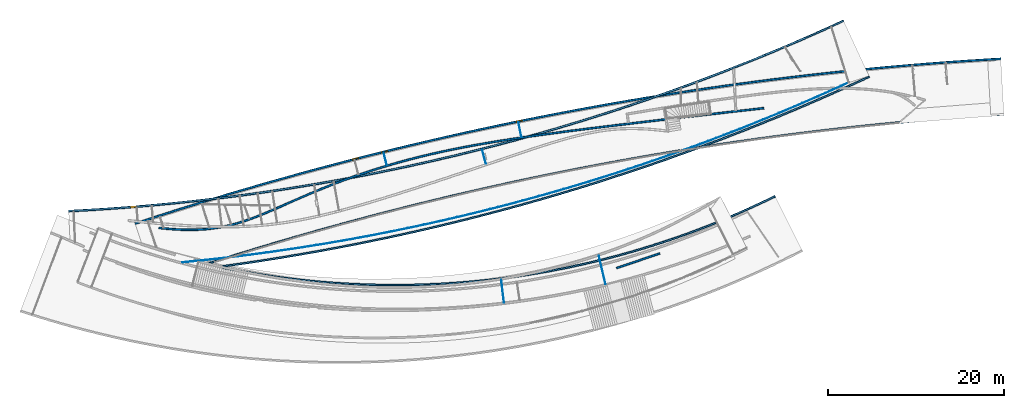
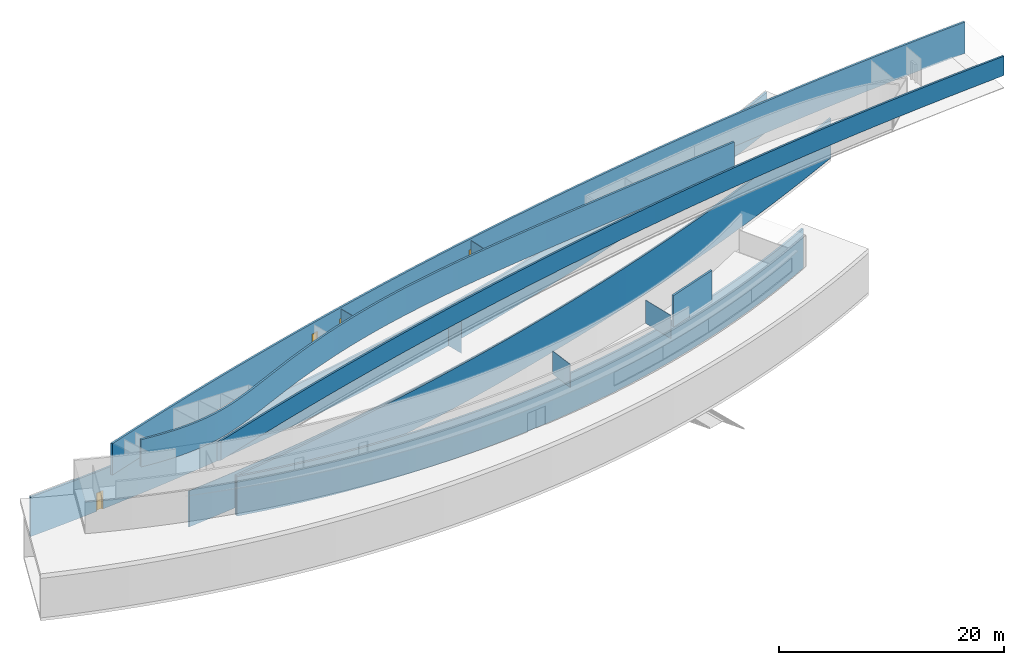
# Not in any storey, part 7 of 14: 13 walls, 4 doors, 4 openings.
"""IFC2X3 model written with IfcOpenShell, lengths in millimetres."""

from ifc_helpers import new_model, entity, si_unit, converted_unit, point, direction, frame, frame_2d, origin_with_axes, origin_2d, place, context, project, spatial, polyline, circle_curve, trimmed, segment, composite_curve, rectangle, outline, extrude, source, transform, mapped, material, layer, layer_set, layer_usage, type_object, element, fill, save


model = new_model("IFC2X3")

# Units and contexts
model_context = context("Model", 3, precision=1.0, world=origin_with_axes(), true_north=direction((0.0, 1.0)))
ifc_project = project(units=[si_unit("LENGTHUNIT", "METRE", prefix="MILLI"), converted_unit("PLANEANGLEUNIT", "DEGREE", entity("IfcRatioMeasure", 0.017453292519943), si_unit("PLANEANGLEUNIT", "RADIAN"), dimensions=[0, 0, 0, 0, 0, 0, 0])], contexts=[model_context])

# Site
site_placement = place(None, origin_with_axes())
site = spatial("IfcSite", under=ifc_project, at=site_placement, Name="Site", CompositionType="ELEMENT")

# Wall
ifc_material_1 = material(Name="Wall layer 1")
ifc_layer_1 = layer(ifc_material_1, 200.0)
ifc_layer_set_1 = layer_set([ifc_layer_1], Name="HOKI 350")
ifc_layer_usage_1 = layer_usage(ifc_layer_set_1, "AXIS2", "POSITIVE", -100.0)
wall_type_1 = type_object("IfcWallType", Name="HOKI 350", PredefinedType="STANDARD", material=ifc_layer_set_1)
wall_1_placement = place(site_placement, frame((52146.9974013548, 8286.93110447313, 10900.0), z_axis=(0.0, 0.0, 1.0), x_axis=(-0.99808828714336, -0.061804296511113, 0.0)))
element("IfcWallStandardCase", 1, at=wall_1_placement, inside=site, type_object=wall_type_1, material=ifc_layer_usage_1, ObjectType="HOKI 350", context=model_context, shape_type="SweptSolid", body=[
    extrude(outline(composite_curve([segment(polyline([(91254.4080487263, 11231.7827507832), (90890.7226254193, 11346.4550973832)]), True, "CONTINUOUS"), segment(trimmed(circle_curve(frame_2d((-1.928129e-09, 373000.000000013), x_axis=(0.243740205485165, -0.969840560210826)), 372900.000000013), [point((90890.7226254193, 11346.4550973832))], [point((-5.8208e-11, 99.9999999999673))], False, "CARTESIAN"), True, "CONTINUOUS"), segment(polyline([(-2.9104e-11, 99.9999999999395), (-9.834e-12, -100.000000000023)]), True, "CONTINUOUS"), segment(trimmed(circle_curve(frame_2d((-8.00355e-10, 373000.000000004), x_axis=(2e-15, -1.0)), 373100.000000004), [point((-9.834e-12, -100.0))], [point((91254.4080487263, 11231.7827507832))], True, "CARTESIAN"), True, "CONTINUOUS")], self_intersect="UNKNOWN")), origin_with_axes(), (0.0, 0.0, 1.0), 2100.0),
])

# Wall, openings, doors
wall_2_placement = place(site_placement, frame((-46484.6938689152, -4120.79803560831, 9600.0), z_axis=(0.0, 0.0, 1.0), x_axis=(0.949368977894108, 0.314163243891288, 0.0)))
wall_2 = element("IfcWallStandardCase", 2, at=wall_2_placement, inside=site, type_object=wall_type_1, material=ifc_layer_usage_1, ObjectType="HOKI 350", context=model_context, shape_type="SweptSolid", body=[
    extrude(outline(composite_curve([segment(polyline([(99150.5862970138, -13209.7025748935), (99202.5656345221, -13016.5752892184)]), True, "CONTINUOUS"), segment(trimmed(circle_curve(frame_2d((-4.25644e-10, -381600.000000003), x_axis=(0.25989668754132, 0.965636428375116)), 381700.000000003), [point((99202.5656345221, -13016.5752892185))], [point((1.4552e-11, 100.000000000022))], True, "CARTESIAN"), True, "CONTINUOUS"), segment(polyline([(-7.276e-12, 100.000000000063), (-7.105e-12, -99.9999999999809)]), True, "CONTINUOUS"), segment(trimmed(circle_curve(frame_2d((8.62201e-10, -381599.999999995), x_axis=(0.0, 1.0)), 381499.999999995), [point((-7.105e-12, -100.0))], [point((99150.5862970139, -13209.7025748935))], False, "CARTESIAN"), True, "CONTINUOUS")], self_intersect="UNKNOWN")), origin_with_axes(), (0.0, 0.0, 1.0), 3400.0),
])
opening_1_placement = place(wall_2_placement, frame((45030.6825402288, -2666.39746525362, 250.000000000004), z_axis=(0.0, 0.0, 1.0), x_axis=(-0.99301300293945, 0.118004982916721, 3e-15)))
opening_1 = element("IfcOpeningElement", 3, at=opening_1_placement, cuts=wall_2, Name="Opening", ObjectType="Opening", context=model_context, shape_type="SweptSolid", body=[
    extrude(rectangle(XDim=700.0, YDim=2000.0, at=origin_2d()), frame((0.0, 600.0, 1000.0), z_axis=(0.0, -1.0, 0.0), x_axis=(1.0, 0.0, 0.0)), (0.0, 0.0, 1.0), 1200.0),
])
opening_2_placement = place(wall_2_placement, frame((29426.9057776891, -1136.47386858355, 250.000000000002), z_axis=(0.0, 0.0, 1.0), x_axis=(0.997022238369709, -0.077114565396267, 5e-15)))
opening_2 = element("IfcOpeningElement", 4, at=opening_2_placement, cuts=wall_2, Name="Opening", ObjectType="Opening", context=model_context, shape_type="SweptSolid", body=[
    extrude(rectangle(XDim=700.0, YDim=2000.0, at=origin_2d()), frame((0.0, 600.0, 1000.0), z_axis=(0.0, -1.0, 0.0), x_axis=(1.0, 0.0, 0.0)), (0.0, 0.0, 1.0), 1200.0),
])
opening_3_placement = place(wall_2_placement, frame((26040.5911524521, -889.709736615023, 250.000000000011), z_axis=(0.0, 0.0, 1.0), x_axis=(-0.997668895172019, 0.068240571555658, 3e-15)))
opening_3 = element("IfcOpeningElement", 5, at=opening_3_placement, cuts=wall_2, Name="Opening", ObjectType="Opening", context=model_context, shape_type="SweptSolid", body=[
    extrude(rectangle(XDim=700.0, YDim=2000.0, at=origin_2d()), frame((0.0, 600.0, 1000.0), z_axis=(0.0, -1.0, 0.0), x_axis=(1.0, 0.0, 0.0)), (0.0, 0.0, 1.0), 1200.0),
])
door_style_1 = type_object("IfcDoorStyle", Name="Hinged (001)", ConstructionType="NOTDEFINED", OperationType="SINGLE_SWING_RIGHT", ParameterTakesPrecedence=True, Sizeable=False)
shared_shape_1 = source(origin_with_axes(), model_context, "Body", "SweptSolid", [
    extrude(outline(composite_curve([segment(polyline([(0.0, 0.0), (0.0, 1950.0)]), True, "CONTINUOUS"), segment(polyline([(0.0, 1950.0), (600.0, 1950.0)]), True, "CONTINUOUS"), segment(polyline([(600.0, 1950.0), (600.0, 0.0)]), True, "CONTINUOUS"), segment(polyline([(600.0, 0.0), (650.0, 0.0)]), True, "CONTINUOUS"), segment(polyline([(650.0, 0.0), (650.0, 2000.0)]), True, "CONTINUOUS"), segment(polyline([(650.0, 2000.0), (-50.0, 2000.0)]), True, "CONTINUOUS"), segment(polyline([(-50.0, 2000.0), (-50.0, 0.0)]), True, "CONTINUOUS"), segment(polyline([(-50.0, 0.0), (0.0, 0.0)]), True, "CONTINUOUS")], self_intersect=False)), frame((300.0, -100.0, 0.0), z_axis=(0.0, 1.0, 0.0), x_axis=(-1.0, 0.0, 0.0)), (0.0, 0.0, 1.0), 199.999999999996),
    extrude(outline(composite_curve([segment(polyline([(0.0, 0.0), (0.0, 1950.0)]), True, "CONTINUOUS"), segment(polyline([(0.0, 1950.0), (-600.0, 1950.0)]), True, "CONTINUOUS"), segment(polyline([(-600.0, 1950.0), (-600.0, 0.0)]), True, "CONTINUOUS"), segment(polyline([(-600.0, 0.0), (0.0, 0.0)]), True, "CONTINUOUS")], self_intersect=False)), frame((-300.000000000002, 59.9999999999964, 0.0), z_axis=(9.1e-14, 1.0, 0.0), x_axis=(-1.0, 9.1e-14, 0.0)), (0.0, 0.0, 1.0), 40.0000000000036),
])
door_1_placement = place(opening_1_placement, frame((0.0, 0.0, 0.0), z_axis=(0.0, 0.0, 1.0), x_axis=(-1.0, 0.0, -3e-15)))
door_1 = element("IfcDoor", 6, at=door_1_placement, inside=site, type_object=door_style_1, ObjectType="Hinged (001)", OverallHeight=2000.0, OverallWidth=700.0, shape_type="MappedRepresentation", body=[
    mapped(shared_shape_1, transform((0.0, 0.0, 0.0), scale=-1.0, scale2=1.0, scale3=1.0, uniform=False)),
])
fill(opening_1, door_1)
door_2_placement = place(opening_2_placement, frame((0.0, 0.0, 0.0), z_axis=(0.0, 0.0, 1.0), x_axis=(-1.0, 0.0, -5e-15)))
door_2 = element("IfcDoor", 7, at=door_2_placement, inside=site, type_object=door_style_1, ObjectType="Hinged (001)", OverallHeight=2000.0, OverallWidth=700.0, shape_type="MappedRepresentation", body=[
    mapped(shared_shape_1, transform((0.0, 0.0, 0.0), scale=-1.0, scale2=1.0, scale3=1.0, uniform=False)),
])
fill(opening_2, door_2)
door_3_placement = place(opening_3_placement, frame((0.0, 0.0, 0.0), z_axis=(0.0, 0.0, 1.0), x_axis=(-1.0, 0.0, -3e-15)))
door_3 = element("IfcDoor", 8, at=door_3_placement, inside=site, type_object=door_style_1, ObjectType="Hinged (001)", OverallHeight=2000.0, OverallWidth=700.0, shape_type="MappedRepresentation", body=[
    mapped(shared_shape_1, transform((0.0, 0.0, 0.0), scale=-1.0, scale2=1.0, scale3=1.0, uniform=False)),
])
fill(opening_3, door_3)

# Wall, opening, door
wall_3_placement = place(site_placement, frame((-54046.1110453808, -2705.23780272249, 4720.0), z_axis=(0.0, 0.0, 1.0), x_axis=(0.998764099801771, 0.049701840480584, 0.0)))
wall_3 = element("IfcWallStandardCase", 9, at=wall_3_placement, inside=site, type_object=wall_type_1, material=ifc_layer_usage_1, ObjectType="HOKI 350", context=model_context, shape_type="SweptSolid", body=[
    extrude(outline(composite_curve([segment(polyline([(88994.8849225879, 17118.2698197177), (88920.2873660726, 17303.8370704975)]), True, "CONTINUOUS"), segment(trimmed(circle_curve(frame_2d((6.5484e-11, 238499.999999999), x_axis=(0.372987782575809, -0.92783625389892)), 238399.999999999), [point((88920.2873660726, 17303.8370704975))], [point((2.9104e-11, 99.9999999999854))], False, "CARTESIAN"), True, "CONTINUOUS"), segment(polyline([(3.638e-11, 100.000000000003), (-8.583e-12, -99.999999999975)]), True, "CONTINUOUS"), segment(trimmed(circle_curve(frame_2d((-5.8208e-11, 238500.0), x_axis=(0.0, -1.0)), 238600.0), [point((-8.583e-12, -99.9999999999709))], [point((88994.8849225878, 17118.2698197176))], True, "CARTESIAN"), True, "CONTINUOUS")], self_intersect="UNKNOWN")), origin_with_axes(), (0.0, 0.0, 1.0), 4280.0),
])
opening_4_placement = place(wall_3_placement, frame((7370.295179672, 114.165167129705, 0.0), z_axis=(0.0, 0.0, 1.0), x_axis=(0.999522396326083, 0.030902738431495, 0.0)))
opening_4 = element("IfcOpeningElement", 10, at=opening_4_placement, cuts=wall_3, Name="Opening", ObjectType="Opening", context=model_context, shape_type="SweptSolid", body=[
    extrude(rectangle(XDim=700.0, YDim=2000.0, at=origin_2d()), frame((0.0, 600.0, 1000.0), z_axis=(0.0, -1.0, 0.0), x_axis=(1.0, 0.0, 0.0)), (0.0, 0.0, 1.0), 1200.0),
])
door_style_2 = type_object("IfcDoorStyle", Name="Hinged", ConstructionType="NOTDEFINED", OperationType="SINGLE_SWING_LEFT", ParameterTakesPrecedence=True, Sizeable=False)
shared_shape_2 = source(origin_with_axes(), model_context, "Body", "SweptSolid", [
    extrude(outline(composite_curve([segment(polyline([(0.0, 0.0), (0.0, 1950.0)]), True, "CONTINUOUS"), segment(polyline([(0.0, 1950.0), (600.0, 1950.0)]), True, "CONTINUOUS"), segment(polyline([(600.0, 1950.0), (600.0, 0.0)]), True, "CONTINUOUS"), segment(polyline([(600.0, 0.0), (650.0, 0.0)]), True, "CONTINUOUS"), segment(polyline([(650.0, 0.0), (650.0, 2000.0)]), True, "CONTINUOUS"), segment(polyline([(650.0, 2000.0), (-50.0, 2000.0)]), True, "CONTINUOUS"), segment(polyline([(-50.0, 2000.0), (-50.0, 0.0)]), True, "CONTINUOUS"), segment(polyline([(-50.0, 0.0), (0.0, 0.0)]), True, "CONTINUOUS")], self_intersect=False)), frame((300.0, -100.0, 0.0), z_axis=(-9e-15, 1.0, 0.0), x_axis=(-1.0, -9e-15, 0.0)), (0.0, 0.0, 1.0), 200.0),
    extrude(outline(composite_curve([segment(polyline([(0.0, 0.0), (0.0, 1950.0)]), True, "CONTINUOUS"), segment(polyline([(0.0, 1950.0), (-600.0, 1950.0)]), True, "CONTINUOUS"), segment(polyline([(-600.0, 1950.0), (-600.0, 0.0)]), True, "CONTINUOUS"), segment(polyline([(-600.0, 0.0), (0.0, 0.0)]), True, "CONTINUOUS")], self_intersect=False)), frame((-300.0, 60.0, 0.0), z_axis=(0.0, 1.0, 0.0), x_axis=(-1.0, 0.0, 0.0)), (0.0, 0.0, 1.0), 40.0000000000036),
])
door_4_placement = place(opening_4_placement, origin_with_axes())
door_4 = element("IfcDoor", 11, at=door_4_placement, inside=site, type_object=door_style_2, ObjectType="Hinged", OverallHeight=2000.0, OverallWidth=700.0, shape_type="MappedRepresentation", body=[
    mapped(shared_shape_2, transform((0.0, 0.0, 0.0))),
])
fill(opening_4, door_4)

# Walls
wall_4_placement = place(site_placement, frame((-36546.7268392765, -8968.23393731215, 4720.0), z_axis=(0.0, 0.0, 1.0), x_axis=(0.990880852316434, 0.134740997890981, 0.0)))
element("IfcWallStandardCase", 12, at=wall_4_placement, inside=site, type_object=wall_type_1, material=ifc_layer_usage_1, ObjectType="HOKI 350", context=model_context, shape_type="SweptSolid", body=[
    extrude(outline(composite_curve([segment(polyline([(75676.6294916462, 11350.4803590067), (75617.4608993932, 11541.5276769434)]), True, "CONTINUOUS"), segment(trimmed(circle_curve(frame_2d((3.27418e-10, 255699.999999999), x_axis=(0.295842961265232, -0.95523658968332)), 255599.999999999), [point((75617.4608993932, 11541.5276769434))], [point((-2.9104e-11, 99.99999999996))], False, "CARTESIAN"), True, "CONTINUOUS"), segment(polyline([(-3.6378e-11, 99.9999999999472), (5.909e-12, -100.000000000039)]), True, "CONTINUOUS"), segment(trimmed(circle_curve(frame_2d((-1.89175e-10, 255700.000000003), x_axis=(1e-15, -1.0)), 255800.000000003), [point((5.909e-12, -100.000000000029))], [point((75676.6294916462, 11350.4803590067))], True, "CARTESIAN"), True, "CONTINUOUS")], self_intersect="UNKNOWN")), origin_with_axes(), (0.0, 0.0, 1.0), 4280.0),
])
wall_5_placement = place(site_placement, frame((-36560.0719988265, -9115.74075277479, 4720.0), z_axis=(0.0, 0.0, 1.0), x_axis=(0.979627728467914, -0.200822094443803, 0.0)))
element("IfcWallStandardCase", 13, at=wall_5_placement, inside=site, type_object=wall_type_1, material=ifc_layer_usage_1, ObjectType="HOKI 350", context=model_context, shape_type="SweptSolid", body=[
    extrude(outline(composite_curve([segment(polyline([(1.01863e-10, 100.000000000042), (16.5493392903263, 52.8182305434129)]), True, "CONTINUOUS"), segment(trimmed(circle_curve(frame_2d((-84649.8708439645, 241434.751839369), x_axis=(0.33098678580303, -0.943635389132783)), 255800.001132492), [point((16.54933929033, 52.818230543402))], [point((151.278301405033, 100.117600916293))], True, "CARTESIAN"), True, "CONTINUOUS"), segment(trimmed(circle_curve(frame_2d((1.8008e-10, 97399.9999999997), x_axis=(0.001554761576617, -0.999998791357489)), 97299.9999999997), [point((151.278301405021, 100.117600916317))], [point((59761.111865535, 20615.2390861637))], True, "CARTESIAN"), True, "CONTINUOUS"), segment(polyline([(59761.111865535, 20615.2390861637), (59883.9507388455, 20457.4081284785)]), True, "CONTINUOUS"), segment(trimmed(circle_curve(frame_2d((8.0036e-11, 97399.9999999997), x_axis=(0.614194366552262, -0.789154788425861)), 97499.9999999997), [point((59883.9507388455, 20457.4081284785))], [point((7.276e-12, -99.9999999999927))], False, "CARTESIAN"), True, "CONTINUOUS"), segment(polyline([(0.0, -99.9999999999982), (1.01863e-10, 100.000000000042)]), True, "CONTINUOUS")], self_intersect="UNKNOWN")), origin_with_axes(), (0.0, 0.0, 1.0), 4280.0),
])
wall_6_placement = place(site_placement, frame((24899.1647980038, 8989.31175795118, 9850.0), z_axis=(0.0, 0.0, 1.0), x_axis=(-0.993731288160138, -0.111795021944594, 0.0)))
element("IfcWallStandardCase", 14, at=wall_6_placement, inside=site, type_object=wall_type_1, material=ifc_layer_usage_1, ObjectType="HOKI 350", context=model_context, shape_type="SweptSolid", body=[
    extrude(outline(composite_curve([segment(polyline([(69749.2501898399, 5731.98556006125), (69794.0941508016, 5926.8932796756)]), True, "CONTINUOUS"), segment(polyline([(69794.0941508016, 5926.8932796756), (69501.7045218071, 5993.07328861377), (69208.726331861, 6057.10559341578), (68915.1649019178, 6118.84144960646), (68621.0255529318, 6178.13211271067), (68326.3136058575, 6234.82883825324), (68031.0343816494, 6288.78288175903), (67735.1932012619, 6339.84549875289), (67438.7953856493, 6387.86794475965), (67141.8462557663, 6432.70147530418), (66844.3511325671, 6474.19734591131), (66546.3153370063, 6512.20681210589), (66247.7441900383, 6546.58112941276), (65948.6430126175, 6577.17155335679), (65649.0171256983, 6603.82933946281), (65348.8718502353, 6626.40574325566), (65048.2125071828, 6644.7520202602), (64791.7491983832, 6656.89209497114), (64536.6196656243, 6665.64506812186), (64282.6599640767, 6671.00027845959), (64029.7061489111, 6672.94706473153), (63777.5942752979, 6671.4747656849), (63526.1603984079, 6666.57272006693), (63275.2405734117, 6658.23026662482), (63024.6708554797, 6646.43674410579), (62774.2872997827, 6631.18149125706), (62523.9259614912, 6612.45384682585), (62273.4228957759, 6590.24314955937), (62022.6141578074, 6564.53873820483), (61771.3358027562, 6535.32995150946), (61519.423885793, 6502.60612822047), (61266.7144620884, 6466.35660708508), (61013.0435868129, 6426.57072685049), (60657.1226219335, 6365.14804673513), (60302.7649578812, 6297.80355989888), (59949.8407360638, 6224.96023817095), (59598.2200978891, 6147.04105338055), (59247.7731847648, 6064.46897735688), (58898.3701380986, 5977.66698192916), (58549.8810992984, 5887.0580389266), (58202.1762097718, 5793.06512017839), (57822.8753496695, 5687.13367527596), (57509.7505724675, 5596.56374371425), (56821.7441320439, 5392.0783130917), (56495.993864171, 5293.5373456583), (54037.8110061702, 4526.25139253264), (53276.0431141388, 4290.6377349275), (52513.0072654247, 4058.91269915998), (51916.3524043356, 3881.20655484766), (51318.8921933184, 3707.4300632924), (50720.5118183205, 3537.69838659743), (50121.0964652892, 3372.12668686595), (49520.5313201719, 3210.8301262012), (48918.7015689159, 3053.92386670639), (48315.4923974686, 2901.52307048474), (47710.7889917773, 2753.74289963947), (47244.8229898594, 2643.33135826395), (46778.4028971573, 2535.82438757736), (46311.4757791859, 2431.20527044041), (45843.9887014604, 2329.45728971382), (45375.8887294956, 2230.56372825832), (44907.1229288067, 2134.50786893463), (44437.6383649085, 2041.27299460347), (43967.3821033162, 1950.84238812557), (43437.2363244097, 1852.42454006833), (42906.6998337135, 1757.6505783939), (42375.712255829, 1666.47852386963), (41844.2132153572, 1578.86639726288), (41312.1423368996, 1494.77221934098), (40779.4392450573, 1414.1540108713), (40246.0435644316, 1336.96979262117), (39711.8949196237, 1263.17758535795), (39163.1357847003, 1190.9578642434), (38614.0883277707, 1122.26982035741), (38064.6117904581, 1057.0265403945), (37514.5654143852, 995.14111104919), (36947.2740809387, 934.811982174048), (36379.7761989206, 877.910689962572), (35811.9430711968, 824.326666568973), (35243.6460006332, 773.949344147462), (34694.5891877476, 728.234598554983), (34145.4857381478, 685.282639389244), (33596.3265111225, 644.980630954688), (33047.1023659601, 607.215737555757), (32497.8041619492, 571.875123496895), (31948.4227583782, 538.845953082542), (31398.9490145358, 508.015390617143), (30849.3737897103, 479.270600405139), (29749.8823342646, 427.586993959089), (28649.8752663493, 382.892448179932), (27549.2794602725, 344.28427750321), (26448.0217903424, 310.859796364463), (25346.341699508, 281.758830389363), (24244.6387263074, 256.464420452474), (23142.8985231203, 234.583578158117), (22041.1067423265, 215.723315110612), (20939.2490363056, 199.49064291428), (19837.3110574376, 185.492573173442), (17633.1368906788, 162.628287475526), (15427.3247717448, 144.723946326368), (13221.5021599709, 130.990517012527), (11015.6361873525, 120.671323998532), (8809.69398588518, 113.009691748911), (4404.8535721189, 103.217610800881), (3.638e-12, 100.0)]), True, "CONTINUOUS"), segment(polyline([(3.638e-12, 100.0), (-3.638e-12, -100.0)]), True, "CONTINUOUS"), segment(polyline([(-3.638e-12, -100.0), (4405.14852644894, -96.7821160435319), (8810.29100073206, -86.9894171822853), (11016.4365788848, -79.3269678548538), (13222.6154129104, -69.0061715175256), (15428.8023266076, -55.270466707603), (17634.9721437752, -37.3632919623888), (19839.6899678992, -14.4924193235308), (20942.0581907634, -0.488150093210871), (22044.4219366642, 15.7526109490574), (23146.773192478, 34.6228162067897), (24249.1039450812, 56.5154180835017), (25351.4061813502, 81.8233689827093), (26453.6718881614, 110.939621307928), (27555.700123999, 144.39020628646), (28657.3901212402, 183.04274789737), (29758.7476943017, 227.798731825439), (30859.7786576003, 279.559643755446), (31410.1734775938, 308.34866199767), (31960.4888255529, 339.226969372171), (32510.7254282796, 372.307251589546), (33060.8840125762, 407.702194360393), (33610.9653052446, 445.52448339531), (34160.9700330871, 485.886804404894), (34710.8989229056, 528.901843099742), (35260.7527015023, 574.682285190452), (35830.066142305, 625.151346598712), (36399.1588383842, 678.85554596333), (36967.9413522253, 735.884606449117), (37536.3242463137, 796.328251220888), (38087.4717433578, 858.339451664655), (38638.3007934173, 923.744795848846), (39188.7186942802, 992.603035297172), (39738.6327437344, 1064.97292153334), (40273.8447625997, 1138.91470566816), (40808.4951560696, 1216.28558381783), (41342.5830874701, 1297.11780192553), (41876.1077201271, 1381.44360593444), (42409.0682173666, 1469.29524178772), (42941.4637425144, 1560.70495542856), (43473.2934588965, 1655.70499280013), (44004.5565298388, 1754.32759984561), (44475.8074584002, 1844.95176575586), (44946.4548271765, 1938.42188012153), (45416.4956712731, 2034.74269792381), (45885.9270257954, 2133.9189741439), (46354.745925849, 2235.95546376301), (46822.9494065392, 2340.85692176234), (47290.5345029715, 2448.6281031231), (47757.4982502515, 2559.27376282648), (48363.4715949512, 2707.36730362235), (48968.1083733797, 2860.13423153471), (49571.4592156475, 3017.44127030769), (50173.5747518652, 3179.15514368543), (50774.5056121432, 3345.14257541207), (51374.302426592, 3515.27028923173), (51973.0158253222, 3689.40500888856), (52570.6964384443, 3867.41345812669), (53334.642381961, 4099.41569543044), (54097.4609579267, 4335.35381985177), (56554.5975655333, 5102.31653801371), (56878.5927280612, 5200.32785773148), (57566.5995406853, 5404.80575285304), (57878.2096423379, 5494.93716372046), (58255.2183388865, 5600.22702088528), (58601.3928048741, 5693.8165094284), (58947.8059581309, 5783.90749706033), (59294.7080471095, 5870.11080498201), (59642.3493202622, 5952.03725439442), (59990.9800260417, 6029.29766649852), (60340.8504129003, 6101.50286249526), (60692.2107292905, 6168.26366358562), (61045.3112236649, 6229.19089097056), (61296.8533393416, 6268.6559066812), (61547.2111522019, 6304.6000777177), (61796.5803842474, 6337.03574477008), (62045.1567574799, 6365.97524852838), (62293.135993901, 6391.43092968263), (62540.7138155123, 6413.41512892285), (62788.0859443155, 6431.94018693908), (63035.4481023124, 6447.01844442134), (63282.9960115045, 6458.66224205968), (63530.9253938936, 6466.88392054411), (63779.4319714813, 6471.69582056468), (64028.7114662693, 6473.1102828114), (64278.9596002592, 6471.13964797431), (64530.3720954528, 6465.79625674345), (64783.1446738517, 6457.09244980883), (65037.4730574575, 6445.0405678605), (65335.879140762, 6426.83837012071), (65633.6717770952, 6404.45419491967), (65930.8704190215, 6378.03093056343), (66227.4945191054, 6347.71146535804), (66523.5635299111, 6313.63868760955), (66819.0969040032, 6275.955485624), (67114.1140939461, 6234.80474770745), (67408.634552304, 6190.32936216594), (67702.6777316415, 6142.67221730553), (67996.2630845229, 6091.97620143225), (68289.4100635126, 6038.38420285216), (68582.138121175, 5982.03910987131), (68874.4667100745, 5923.08381079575), (69166.4152827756, 5861.66119393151), (69458.0032918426, 5797.91414758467), (69749.2501898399, 5731.98556006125)]), True, "CONTINUOUS")], self_intersect="UNKNOWN")), origin_with_axes(), (0.0, 0.0, 1.0), 2950.0),
])
wall_7_placement = place(site_placement, frame((13074.4864754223, -7500.47048436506, 9600.0), z_axis=(0.0, 0.0, 1.0), x_axis=(-0.94651018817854, -0.322673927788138, 0.0)))
element("IfcWallStandardCase", 15, at=wall_7_placement, inside=site, type_object=wall_type_1, material=ifc_layer_usage_1, ObjectType="HOKI 350", context=model_context, shape_type="SweptSolid", body=[
    extrude(outline(polyline([(5181.53088139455, -100.0), (5181.53088139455, 100.000000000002), (0.0, 100.0), (1.819e-12, -100.0), (5181.53088139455, -100.0)])), origin_with_axes(), (0.0, 0.0, 1.0), 3400.0),
])
ifc_material_2 = material(Name="Wall layer 1")
ifc_layer_2 = layer(ifc_material_2, 50.0)
ifc_layer_set_2 = layer_set([ifc_layer_2], Name="HOKI 50mm")
ifc_layer_usage_2 = layer_usage(ifc_layer_set_2, "AXIS2", "POSITIVE", -25.0)
wall_type_2 = type_object("IfcWallType", Name="HOKI 50mm", PredefinedType="STANDARD", material=ifc_layer_set_2)
wall_8_placement = place(site_placement, frame((34530.8215165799, 11904.6207294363, 4720.0), z_axis=(0.0, 0.0, 1.0), x_axis=(-0.907980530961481, -0.419012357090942, 0.0)))
element("IfcWallStandardCase", 16, at=wall_8_placement, inside=site, type_object=wall_type_2, material=ifc_layer_usage_2, ObjectType="HOKI 50mm", context=model_context, shape_type="SweptSolid", body=[
    extrude(outline(composite_curve([segment(trimmed(circle_curve(frame_2d((17868.7258025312, -84289.8801990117), x_axis=(0.640021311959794, 0.76835715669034)), 92658.461257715), [point((77172.1157408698, -13095.0883637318))], [point((77281.6238915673, -13186.4486129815))], False, "CARTESIAN"), True, "CONTINUOUS"), segment(trimmed(circle_curve(frame_2d((-7.42148e-10, -233497.518931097), x_axis=(0.331009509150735, 0.943627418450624)), 233472.518931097), [point((77281.6238915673, -13186.4486129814))], [point((-2.9104e-11, -24.9999999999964))], True, "CARTESIAN"), True, "CONTINUOUS"), segment(polyline([(-7.275e-12, -25.0000000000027), (1.3527e-11, 24.9999999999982)]), True, "CONTINUOUS"), segment(trimmed(circle_curve(frame_2d((3.34694e-10, -233497.518931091), x_axis=(0.0, 1.0)), 233522.518931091), [point((1.3527e-11, 25.0))], [point((77172.1157408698, -13095.0883637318))], False, "CARTESIAN"), True, "CONTINUOUS")], self_intersect="UNKNOWN")), origin_with_axes(), (0.0, 0.0, 1.0), 3930.0),
])
wall_9_placement = place(site_placement, frame((-17872.169941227, 2347.07691081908, 9850.0), z_axis=(0.0, 0.0, 1.0), x_axis=(-0.241106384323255, 0.970498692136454, 0.0)))
element("IfcWallStandardCase", 17, at=wall_9_placement, inside=site, type_object=wall_type_2, material=ifc_layer_usage_2, ObjectType="HOKI 50mm", context=model_context, shape_type="SweptSolid", body=[
    extrude(outline(composite_curve([segment(trimmed(circle_curve(frame_2d((-379874.859642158, 327.752888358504), x_axis=(0.999999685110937, -0.000793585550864)), 381500.000887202), [point((1625.02111486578, 24.9999999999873))], [point((1624.97815903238, -25.0000000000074))], False, "CARTESIAN"), True, "CONTINUOUS"), segment(polyline([(1624.97815903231, -25.0000000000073), (202.51735206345, -24.9999999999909)]), True, "CONTINUOUS"), segment(polyline([(202.51735206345, -24.9999999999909), (200.210308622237, 25.0)]), True, "CONTINUOUS"), segment(polyline([(200.210308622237, 25.0), (1625.02111486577, 24.9999999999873)]), True, "CONTINUOUS")], self_intersect="UNKNOWN")), origin_with_axes(), (0.0, 0.0, 1.0), 2950.0),
])
wall_10_placement = place(site_placement, frame((-2610.73508740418, 5594.00336250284, 9850.0), z_axis=(0.0, 0.0, 1.0), x_axis=(-0.199780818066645, 0.97984061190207, 0.0)))
element("IfcWallStandardCase", 18, at=wall_10_placement, inside=site, type_object=wall_type_2, material=ifc_layer_usage_2, ObjectType="HOKI 50mm", context=model_context, shape_type="SweptSolid", body=[
    extrude(outline(composite_curve([segment(trimmed(circle_curve(frame_2d((-379680.340243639, -161.138880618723), x_axis=(0.999999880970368, 0.000487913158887)), 381500.021527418), [point((1819.63587397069, 25.0000000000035))], [point((1819.65699309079, -25.0000000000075))], False, "CARTESIAN"), True, "CONTINUOUS"), segment(polyline([(1819.65699309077, -25.0000000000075), (147.603551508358, -25.000000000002)]), True, "CONTINUOUS"), segment(polyline([(147.603551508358, -25.000000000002), (150.395187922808, 25.000000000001)]), True, "CONTINUOUS"), segment(polyline([(150.395187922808, 25.000000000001), (1819.63587397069, 25.0000000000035)]), True, "CONTINUOUS")], self_intersect="UNKNOWN")), origin_with_axes(), (0.0, 0.0, 1.0), 2950.0),
])
wall_11_placement = place(site_placement, frame((6135.00439336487, -7681.72387382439, 9849.99645367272), z_axis=(0.0, 0.0, 1.0), x_axis=(0.231477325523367, -0.972840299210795, 0.0)))
element("IfcWallStandardCase", 19, at=wall_11_placement, inside=site, type_object=wall_type_2, material=ifc_layer_usage_2, ObjectType="HOKI 50mm", context=model_context, shape_type="SweptSolid", body=[
    extrude(outline(composite_curve([segment(polyline([(3406.83024635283, 24.999999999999), (3406.78519567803, -25.000000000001)]), True, "CONTINUOUS"), segment(polyline([(3406.78519567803, -25.000000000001), (104.453354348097, -25.0)]), True, "CONTINUOUS"), segment(polyline([(104.453354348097, -25.0), (99.9156634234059, 25.0)]), True, "CONTINUOUS"), segment(polyline([(99.9156634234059, 25.0), (3406.83024635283, 24.999999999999)]), True, "CONTINUOUS")], self_intersect="UNKNOWN")), origin_with_axes(), (0.0, 0.0, 1.0), 2500.0),
])
wall_12_placement = place(site_placement, frame((-4946.65732605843, -10302.3954406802, 9849.99645367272), z_axis=(0.0, 0.0, 1.0), x_axis=(0.120872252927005, -0.992668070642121, 0.0)))
element("IfcWallStandardCase", 20, at=wall_12_placement, inside=site, type_object=wall_type_2, material=ifc_layer_usage_2, ObjectType="HOKI 50mm", context=model_context, shape_type="SweptSolid", body=[
    extrude(outline(composite_curve([segment(polyline([(2796.68888437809, 24.9999999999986), (2796.84961759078, -24.9999999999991)]), True, "CONTINUOUS"), segment(polyline([(2796.84961759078, -24.9999999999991), (201.754766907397, -24.9999999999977)]), True, "CONTINUOUS"), segment(polyline([(201.754766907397, -24.9999999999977), (199.819049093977, 25.0000000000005)]), True, "CONTINUOUS"), segment(polyline([(199.819049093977, 25.0000000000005), (2796.68888437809, 24.9999999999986)]), True, "CONTINUOUS")], self_intersect="UNKNOWN")), origin_with_axes(), (0.0, 0.0, 1.0), 2500.0),
])
wall_13_placement = place(site_placement, frame((-6672.97225981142, 2668.99026827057, 4720.0), z_axis=(0.0, 0.0, 1.0), x_axis=(-0.24642578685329, 0.969161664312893, 0.0)))
element("IfcWallStandardCase", 21, at=wall_13_placement, inside=site, type_object=wall_type_2, material=ifc_layer_usage_2, ObjectType="HOKI 50mm", context=model_context, shape_type="SweptSolid", body=[
    extrude(outline(composite_curve([segment(trimmed(circle_curve(frame_2d((240245.956330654, 25.0000001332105), x_axis=(-1.0, -5.58e-13)), 238600.000521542), [point((1645.95580911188, 25.0000000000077))], [point((1645.9610480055, -25.0000000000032))], True, "CARTESIAN"), True, "CONTINUOUS"), segment(polyline([(1645.9610480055, -25.0000000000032), (2.71945723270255, -25.0)]), True, "CONTINUOUS"), segment(polyline([(2.71945723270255, -25.0), (-1.20959952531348, 25.0)]), True, "CONTINUOUS"), segment(polyline([(-1.20959952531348, 25.0), (1645.95580911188, 25.0000000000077)]), True, "CONTINUOUS")], self_intersect="UNKNOWN")), origin_with_axes(), (0.0, 0.0, 1.0), 4280.0),
])

save(model, "model.ifc")
